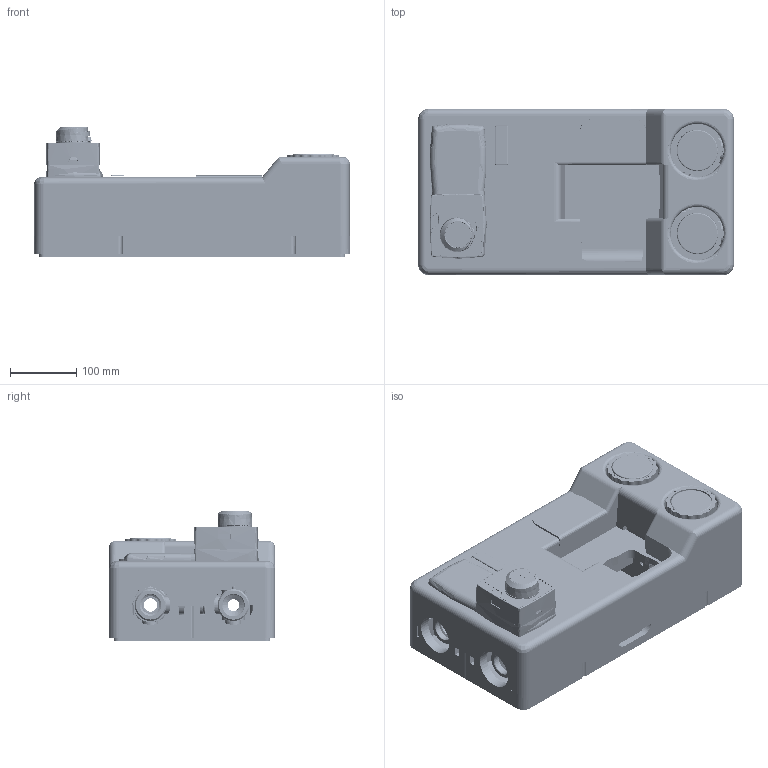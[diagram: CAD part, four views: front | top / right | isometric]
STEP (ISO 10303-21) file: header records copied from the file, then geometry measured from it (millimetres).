
FILE_DESCRIPTION (( 'STEP AP214' ), '1' );
FILE_NAME ('180-2.STEP', '2022-02-02T09:51:18', ( '' ), ( '' ), 'SwSTEP 2.0', 'SolidWorks 2021', '' );
FILE_SCHEMA (( 'AUTOMOTIVE_DESIGN' ));
Length unit declared in the file: millimetre
Products named in the file (137): 0_0_0_5; Teil_2; ISO 4032-M8-10_Sechskantmuttern_0; DECKGLAS; OBERTEIL Lu 05 00 410613_05 00 410613; STEGE_2; ZEIGER; Halter oben; Skalenscheibe  Mischerbet. _AFRISO-PL__05 00 000273; Bewegung Drehschieber_Bewegung Drehschieber; STEG_10; AFRISO; STEG_4; Bedruckung; 05 01 000475_Lagerdeckel VS bedr.; 907380 0001_FKS-DIN7380_2-10.9-TX20-(A2K)-M4X12_0_3; 900085 5010_Flakoschr. ISO7045 M5x10-4,8-Z; 05 00 410237__X_DCberwurfmutter G1 1_2; STEG_19; zifferblatt_Baugruppe_0; M9120006; Einlegeteile Stellantrieb_05 00 410617; STEG_15; Mitnahme-Blech_05 00 410240; M9120005; 05 00 410348_Distanzh_X_FClse lang; STEG_20; 0_0_0_3; M9120004; STEG_3; Einspritzbolzen M5_05 01 000394; STEG_11; HANDRAD_05 00 410222_2; Vezje AVD; 05 01 000392_Mischergeh_X_E4use DN 25; STEG_26; STEG_13; O-RING 8,73X1,78_801 000 0202; STEG_24; M9120001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
Assembly tree (136 placements, depth 10):
  180-2
    PrimoTherm 180-2 DN25 3WM-SM Vario_77300
      R_X_DCCKLAUFSTRANG
        05 00 32 11_ R_X_FCcklaufstrang PrimoTherm vorm.
          05 00 410412_05 00 410112
            Einschraubk_X_F6rper_05 00 410483
          HANDRAD_05 00 410222
            HANDRAD_05 00 410222
            STEGE
            0_0_0
              0_0_0_2
                STEG
                STEG_2
                STEG_3
                0_0_0_3
                  STEG_4
                  STEG_5
              0_0_0_4
                STEG_6
                STEG_7
                STEG_8
                STEG_9
              0_0_0_5
                STEG_10
                STEG_11
                STEG_12
                STEG_13
            Tauchh_X_FClse_05 00 410223
            ZAHNSCHEIBE_906797 8400
            Mitnahme-Blech_05 00 410240
              BLECHLASCHE
        05 00 41 87_Bi-Th NG63 0-120_X_B0C blau RSK
          zifferblatt_Baugruppe_0
            DECKGLAS
            ZIFFERBLATT
            ZEIGER
            Bedruckung02
            Ring-blau
            Bedruckung
              Bedruckung
              Afriso Logo
        05 00 410237__X_DCberwurfmutter G1 1_2
      VORLAUFSTRANG
        05 00 41 20_Bi-Th. NG63 0-120_X_B0C rot_0
          DECKGLAS_2
          ZIFFERBLATT_2
          ZEIGER_2
          DRUCK
        Baugruppe_05 00 32 10
          05 00 32 10_Pumpenkugelhahn VL vorm.
            05 00 410411_05 00 410411
              Einschraubk_X_F6rper_05 00 410483_2
              SPINDEL_05 00 410197
                SPINDEL_05 00 410197
                O-RING 8,73X1,78_801 000 0202
                O-RING 8,73X1,78_O-Ring 8,73x1,78_15_
            HANDRAD_05 00 410222_2
              HANDRAD_05 00 410222_2
              STEGE_2
              0_0_0_6
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Bounding box: 475 x 250.01 x 195.56 mm (x, y, z)
Volume: 8282055.1 mm3; surface area: 1428538.5 mm2
Topology: 278 solids, 279 shells, 13443 faces, 34936 edges, 22051 vertices
Faces by surface type: plane 6441, bspline 2874, cylinder 2770, cone 1084, torus 269, sphere 5
Entity records: 714460 total; most frequent: CARTESIAN_POINT 285814, ORIENTED_EDGE 69500, DIRECTION 53209, EDGE_CURVE 34754, VERTEX_POINT 22048, LINE 18597, VECTOR 18597, AXIS2_PLACEMENT_3D 17306
